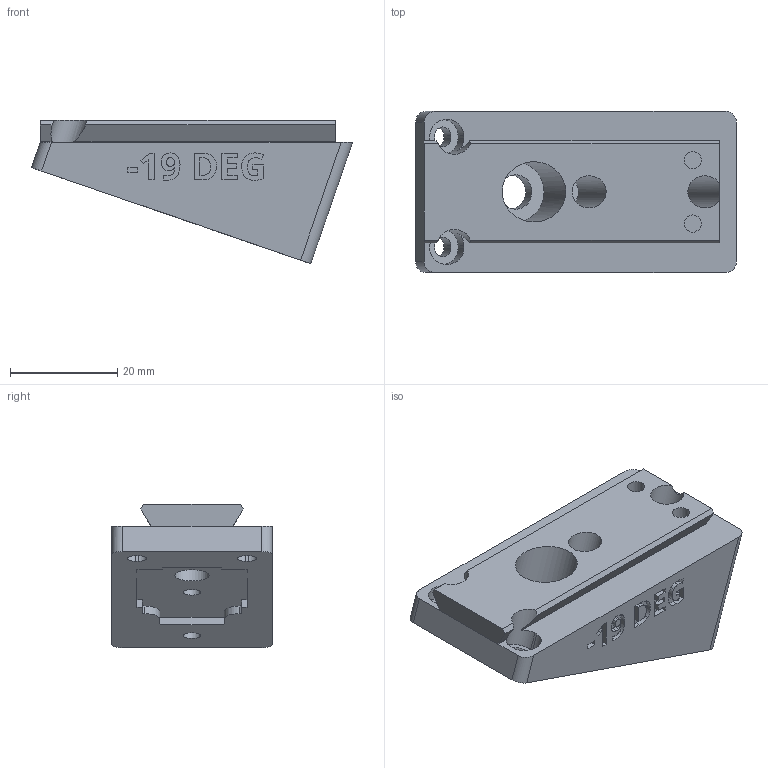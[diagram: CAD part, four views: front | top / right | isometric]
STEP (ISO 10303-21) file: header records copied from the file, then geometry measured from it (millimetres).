
FILE_DESCRIPTION(/* description */ ('STEP AP242 Edition 2','CAx-IF Rec.Pracs.---Representation and Presentation of Product Manufacturing Information (PMI)---4.0---2014-10-13','CAx-IF Rec.Pracs.---3D Tessellated Geometry---0.4---2014-09-14','2;1','CAx-IF Rec.Pracs.---User Defined Attributes---1.5---2016-08-15'),/* implementation_level */ '2;1');
FILE_NAME(/* name */ 'Camera Wedges - CAMERA MOUNTING WEDGE, NEG, -19 DEG',/* time_stamp */ '2026-07-08T20:35:07Z',/* author */ (''),/* organization */ (''),/* preprocessor_version */ 'ST-DEVELOPER v20',/* originating_system */ 'ONSHAPE BY PTC INC, 1.217',/* authorisation */ ' ');
FILE_SCHEMA (('AP242_MANAGED_MODEL_BASED_3D_ENGINEERING_MIM_LF { 1 0 10303 442 3 1 4 }'));
Length unit declared in the file: metre
Products named in the file (1): CAMERA MOUNTING WEDGE, NEG, -19 DEG
Bounding box: 59.78 x 30 x 26.7 mm (x, y, z)
Volume: 24098.3 mm3; surface area: 8289.1 mm2
Topology: 1 solids, 1 shells, 259 faces, 706 edges, 470 vertices
Faces by surface type: plane 145, bspline 72, cylinder 42
Full cylindrical faces by diameter (mm): 3.2 x4, 6 x2, 6.4 x1, 11.2 x1
Entity records: 8382 total; most frequent: CARTESIAN_POINT 2218, ORIENTED_EDGE 1394, DIRECTION 1026, EDGE_CURVE 697, VERTEX_POINT 469, LINE 456, VECTOR 456, EDGE_LOOP 298
